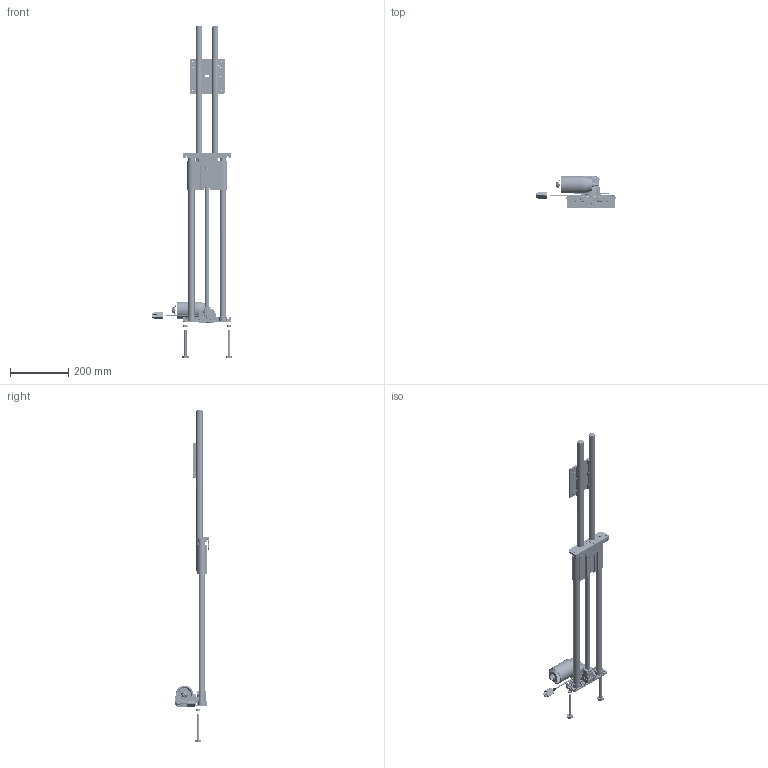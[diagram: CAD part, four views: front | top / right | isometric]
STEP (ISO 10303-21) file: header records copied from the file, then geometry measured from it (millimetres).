
FILE_DESCRIPTION(/* description */ (''),/* implementation_level */ '2;1');
FILE_NAME(/* name */ '4701_00-V05H0430-ausgefahren.stp',/* time_stamp */ '2024-01-11T08:04:33+01:00',/* author */ ('Weber_H'),/* organization */ (''),/* preprocessor_version */ 'ST-DEVELOPER v19.2',/* originating_system */ 'Autodesk Inventor 2023',/* authorisation */ '');
FILE_SCHEMA (('CONFIG_CONTROL_DESIGN'));
Products named in the file (1): Bauteil7
Bounding box: 275.36 x 113.3 x 1138.1 mm (x, y, z)
Volume: 1244697 mm3; surface area: 751015.2 mm2
Topology: 6 solids, 90 shells, 8330 faces, 21263 edges, 12183 vertices
Faces by surface type: cylinder 3480, plane 2949, sphere 975, torus 476, cone 286, bspline 164
Full cylindrical faces by diameter (mm): 1.5 x2, 2 x4, 2.6 x8, 2.8 x2, 3.1 x6, 3.35 x4, 3.464 x2, 3.7 x1, 3.82 x1, 4 x28, 4.1 x8, 4.134 x5, 4.2 x17, 4.25 x2, 4.567 x2, 4.6 x2, 4.773 x4, 4.99 x1, 5 x16, 5.1 x2, 5.3 x2, 5.5 x1, 6 x17, 6.08 x1, 6.2 x4, 6.647 x2, 6.8 x2, 7 x6, 7.5 x3, 7.99 x2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
Entity records: 280124 total; most frequent: CARTESIAN_POINT 74274, DIRECTION 43673, ORIENTED_EDGE 40510, EDGE_CURVE 20255, AXIS2_PLACEMENT_3D 16690, VERTEX_POINT 12183, LINE 10293, VECTOR 10293
